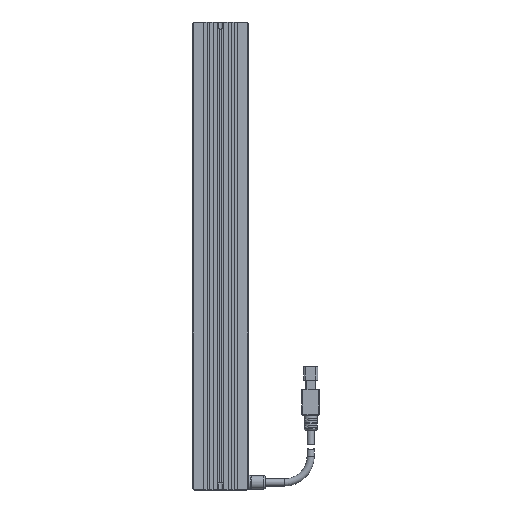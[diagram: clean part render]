
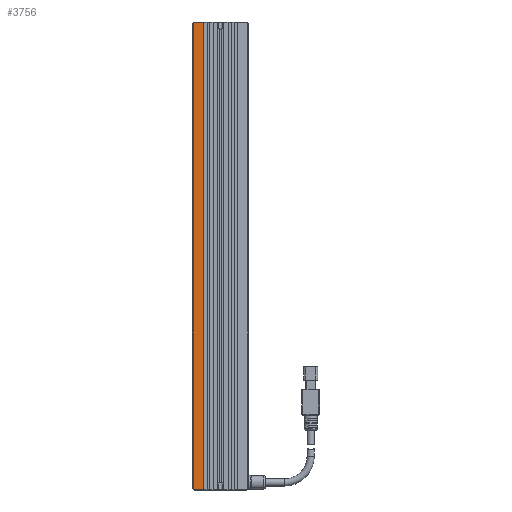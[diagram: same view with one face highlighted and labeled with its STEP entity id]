
A CAD part, top view. The second image highlights one B-rep face of the part: STEP entity #3756.
In plain terms, the highlighted planar face has unit normal (0, 0, 1).
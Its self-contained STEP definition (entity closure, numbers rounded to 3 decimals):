
#162 = CARTESIAN_POINT ( 'NONE',  ( -15.5, 134., 12.5 ) ) ;
#264 = EDGE_CURVE ( 'NONE', #11151, #3289, #8781, .T. ) ;
#289 = ORIENTED_EDGE ( 'NONE', *, *, #8679, .T. ) ;
#356 = CARTESIAN_POINT ( 'NONE',  ( -15.5, 134., 12.5 ) ) ;
#546 = EDGE_CURVE ( 'NONE', #13097, #3289, #11105, .T. ) ;
#2366 = VERTEX_POINT ( 'NONE', #6524 ) ;
#2809 = LINE ( 'NONE', #356, #15507 ) ;
#2875 = DIRECTION ( 'NONE',  ( 1., 0., 0. ) ) ;
#3118 = DIRECTION ( 'NONE',  ( 0., -1., 0. ) ) ;
#3289 = VERTEX_POINT ( 'NONE', #8919 ) ;
#3530 = LINE ( 'NONE', #18358, #6143 ) ;
#3756 = ADVANCED_FACE ( 'NONE', ( #18695 ), #7408, .F. ) ;
#4118 = VERTEX_POINT ( 'NONE', #18905 ) ;
#4817 = CARTESIAN_POINT ( 'NONE',  ( -16., -133., 12.5 ) ) ;
#5296 = VERTEX_POINT ( 'NONE', #16534 ) ;
#5396 = LINE ( 'NONE', #4817, #12461 ) ;
#5873 = LINE ( 'NONE', #162, #10353 ) ;
#6143 = VECTOR ( 'NONE', #12370, 1000. ) ;
#6524 = CARTESIAN_POINT ( 'NONE',  ( -15.5, 133.5, 12.5 ) ) ;
#6918 = DIRECTION ( 'NONE',  ( 0., -1., 0. ) ) ;
#7091 = ORIENTED_EDGE ( 'NONE', *, *, #8104, .T. ) ;
#7408 = PLANE ( 'NONE',  #13724 ) ;
#8104 = EDGE_CURVE ( 'NONE', #4118, #2366, #3530, .T. ) ;
#8620 = EDGE_CURVE ( 'NONE', #2366, #5296, #5873, .T. ) ;
#8679 = EDGE_CURVE ( 'NONE', #5296, #11151, #5396, .T. ) ;
#8781 = LINE ( 'NONE', #17838, #13939 ) ;
#8919 = CARTESIAN_POINT ( 'NONE',  ( -9.7, -134., 12.5 ) ) ;
#10353 = VECTOR ( 'NONE', #3118, 1000. ) ;
#10417 = DIRECTION ( 'NONE',  ( 0., 0., -1. ) ) ;
#10958 = DIRECTION ( 'NONE',  ( 0.707, -0.707, 0. ) ) ;
#11105 = LINE ( 'NONE', #18827, #16737 ) ;
#11151 = VERTEX_POINT ( 'NONE', #15843 ) ;
#12370 = DIRECTION ( 'NONE',  ( -0.707, -0.707, 0. ) ) ;
#12461 = VECTOR ( 'NONE', #10958, 1000. ) ;
#13097 = VERTEX_POINT ( 'NONE', #13691 ) ;
#13661 = DIRECTION ( 'NONE',  ( 1., 0., 0. ) ) ;
#13691 = CARTESIAN_POINT ( 'NONE',  ( -9.7, 134., 12.5 ) ) ;
#13700 = DIRECTION ( 'NONE',  ( -1., 0., 0. ) ) ;
#13724 = AXIS2_PLACEMENT_3D ( 'NONE', #18039, #10417, #13700 ) ;
#13939 = VECTOR ( 'NONE', #2875, 1000. ) ;
#15247 = ORIENTED_EDGE ( 'NONE', *, *, #18293, .F. ) ;
#15507 = VECTOR ( 'NONE', #13661, 1000. ) ;
#15843 = CARTESIAN_POINT ( 'NONE',  ( -15., -134., 12.5 ) ) ;
#15894 = ORIENTED_EDGE ( 'NONE', *, *, #546, .F. ) ;
#15996 = EDGE_LOOP ( 'NONE', ( #15247, #7091, #18705, #289, #18863, #15894 ) ) ;
#16534 = CARTESIAN_POINT ( 'NONE',  ( -15.5, -133.5, 12.5 ) ) ;
#16737 = VECTOR ( 'NONE', #6918, 1000. ) ;
#17838 = CARTESIAN_POINT ( 'NONE',  ( -15.5, -134., 12.5 ) ) ;
#18039 = CARTESIAN_POINT ( 'NONE',  ( -15.5, 134., 12.5 ) ) ;
#18293 = EDGE_CURVE ( 'NONE', #4118, #13097, #2809, .T. ) ;
#18358 = CARTESIAN_POINT ( 'NONE',  ( -15., 134., 12.5 ) ) ;
#18695 = FACE_OUTER_BOUND ( 'NONE', #15996, .T. ) ;
#18705 = ORIENTED_EDGE ( 'NONE', *, *, #8620, .T. ) ;
#18827 = CARTESIAN_POINT ( 'NONE',  ( -9.7, 134., 12.5 ) ) ;
#18863 = ORIENTED_EDGE ( 'NONE', *, *, #264, .T. ) ;
#18905 = CARTESIAN_POINT ( 'NONE',  ( -15., 134., 12.5 ) ) ;
